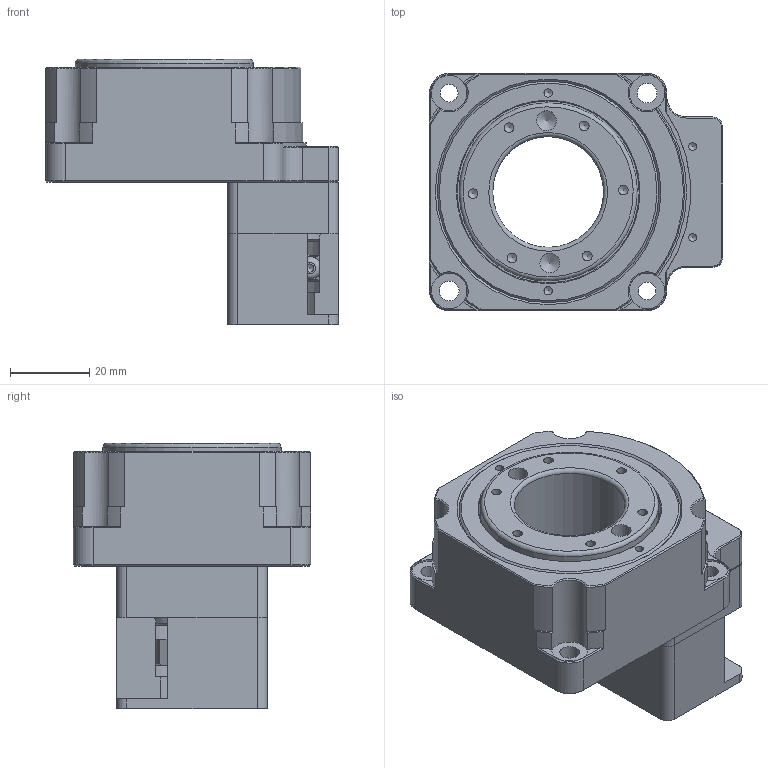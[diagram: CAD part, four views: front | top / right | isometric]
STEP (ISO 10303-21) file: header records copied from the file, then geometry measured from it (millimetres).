
FILE_DESCRIPTION((''),'2;1');
FILE_NAME('D:\유성\액추에이터\작성도면\액추에이터 3d\60\SHA060SV010.stp','2014-05-22T13:22:49',('nagyu'),(''),'Autodesk Inventor 2013','Autodesk Inventor 2013','');
FILE_SCHEMA(('AUTOMOTIVE_DESIGN { 1 0 10303 214 1 1 1 1 }'));
Length unit declared in the file: millimetre
Products named in the file (1): SHA060SV010_Shrinkwrap_1
Bounding box: 74.08 x 60 x 67 mm (x, y, z)
Volume: 95305 mm3; surface area: 45091.8 mm2
Topology: 3 solids, 11 shells, 1565 faces, 4469 edges, 2927 vertices
Faces by surface type: bspline 570, cone 451, cylinder 315, plane 177, torus 43, sphere 9
Full cylindrical faces by diameter (mm): 1.5 x2, 2.013 x2, 2.1 x2, 2.459 x14, 3 x4, 3.4 x9, 3.946 x1, 4.5 x2, 5 x7, 5.2 x1, 5.5 x2, 5.7 x1, 6 x6, 7.5 x1, 8.6 x1, 9 x4, 11.5 x1, 11.9 x2, 12 x3, 13.5 x1, 14.5 x1, 15.912 x2, 20 x2, 20.088 x2, 22 x2, 24 x3, 28 x2, 35 x1, 37.5 x1, 44 x1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
Entity records: 61644 total; most frequent: CARTESIAN_POINT 24784, ORIENTED_EDGE 8460, DIRECTION 5905, EDGE_CURVE 4230, VERTEX_POINT 2854, AXIS2_PLACEMENT_3D 2799, B_SPLINE_CURVE_WITH_KNOTS 2081, CIRCLE 1796
